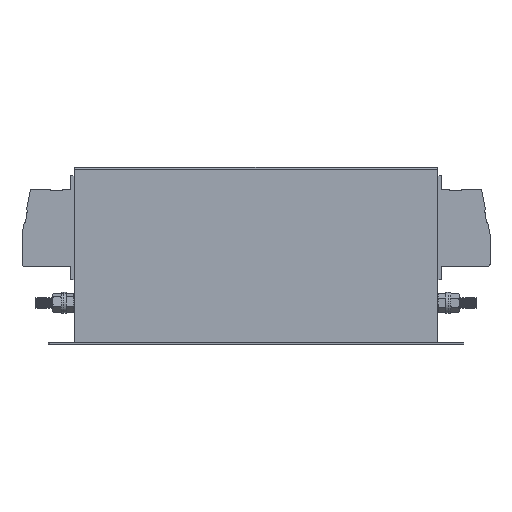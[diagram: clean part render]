
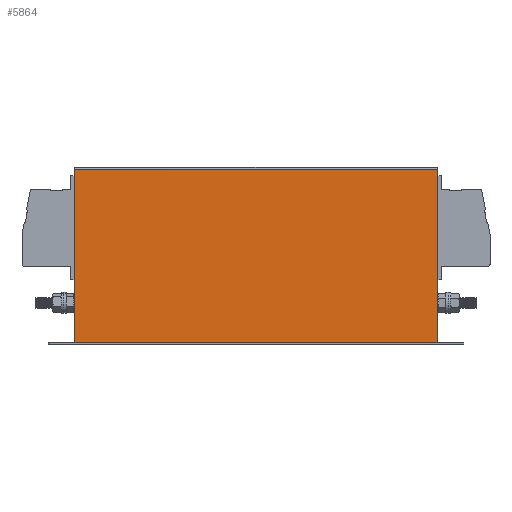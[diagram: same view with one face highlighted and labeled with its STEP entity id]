
A CAD part, top view. The second image highlights one B-rep face of the part: STEP entity #5864.
In plain terms, the highlighted planar face has unit normal (0, 0, 1).
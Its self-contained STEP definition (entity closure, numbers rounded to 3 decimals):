
#3494 = VERTEX_POINT ( 'NONE', #5627 ) ;
#3515 = VERTEX_POINT ( 'NONE', #5655 ) ;
#3534 = EDGE_CURVE ( 'NONE', #3494, #3515, #5637, .T. ) ;
#5627 = CARTESIAN_POINT ( 'NONE',  ( 25., 1.5, 1.5 ) ) ;
#5634 = DIRECTION ( 'NONE',  ( 1., 0., 0. ) ) ;
#5635 = VECTOR ( 'NONE', #5634, 1000. ) ;
#5636 = CARTESIAN_POINT ( 'NONE',  ( 25., 1.5, 1.5 ) ) ;
#5637 = LINE ( 'NONE', #5636, #5635 ) ;
#5655 = CARTESIAN_POINT ( 'NONE',  ( 375., 1.5, 1.5 ) ) ;
#5785 = ORIENTED_EDGE ( 'NONE', *, *, #3534, .T. ) ;
#5864 = ADVANCED_FACE ( 'NONE', ( #9034 ), #9033, .F. ) ;
#5871 = VERTEX_POINT ( 'NONE', #9023 ) ;
#5874 = EDGE_LOOP ( 'NONE', ( #5911, #5914, #5904, #5785 ) ) ;
#5903 = EDGE_CURVE ( 'NONE', #5913, #5871, #9097, .T. ) ;
#5904 = ORIENTED_EDGE ( 'NONE', *, *, #5920, .T. ) ;
#5911 = ORIENTED_EDGE ( 'NONE', *, *, #5912, .F. ) ;
#5912 = EDGE_CURVE ( 'NONE', #5913, #3515, #9091, .T. ) ;
#5913 = VERTEX_POINT ( 'NONE', #9087 ) ;
#5914 = ORIENTED_EDGE ( 'NONE', *, *, #5903, .T. ) ;
#5920 = EDGE_CURVE ( 'NONE', #5871, #3494, #9144, .T. ) ;
#9023 = CARTESIAN_POINT ( 'NONE',  ( 25., 168.5, 1.5 ) ) ;
#9029 = DIRECTION ( 'NONE',  ( -1., 0., 0. ) ) ;
#9030 = DIRECTION ( 'NONE',  ( 0., 0., -1. ) ) ;
#9031 = CARTESIAN_POINT ( 'NONE',  ( 25., 170., 1.5 ) ) ;
#9032 = AXIS2_PLACEMENT_3D ( 'NONE', #9031, #9030, #9029 ) ;
#9033 = PLANE ( 'NONE',  #9032 ) ;
#9034 = FACE_OUTER_BOUND ( 'NONE', #5874, .T. ) ;
#9087 = CARTESIAN_POINT ( 'NONE',  ( 375., 168.5, 1.5 ) ) ;
#9088 = DIRECTION ( 'NONE',  ( 0., -1., 0. ) ) ;
#9089 = VECTOR ( 'NONE', #9088, 1000. ) ;
#9090 = CARTESIAN_POINT ( 'NONE',  ( 375., 170., 1.5 ) ) ;
#9091 = LINE ( 'NONE', #9090, #9089 ) ;
#9094 = DIRECTION ( 'NONE',  ( -1., 0., 0. ) ) ;
#9095 = VECTOR ( 'NONE', #9094, 1000. ) ;
#9096 = CARTESIAN_POINT ( 'NONE',  ( 25., 168.5, 1.5 ) ) ;
#9097 = LINE ( 'NONE', #9096, #9095 ) ;
#9141 = DIRECTION ( 'NONE',  ( 0., -1., 0. ) ) ;
#9142 = VECTOR ( 'NONE', #9141, 1000. ) ;
#9143 = CARTESIAN_POINT ( 'NONE',  ( 25., 170., 1.5 ) ) ;
#9144 = LINE ( 'NONE', #9143, #9142 ) ;
